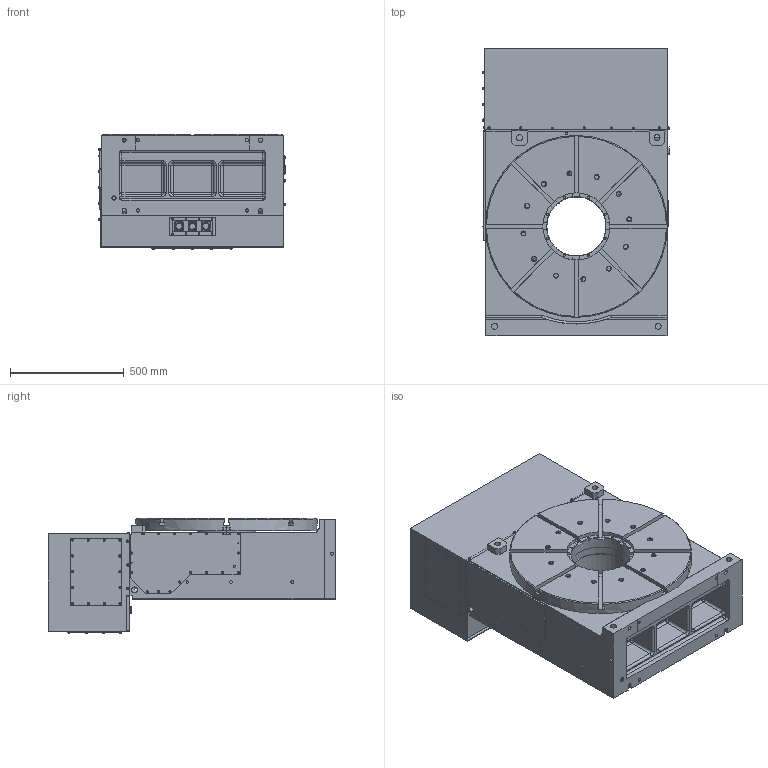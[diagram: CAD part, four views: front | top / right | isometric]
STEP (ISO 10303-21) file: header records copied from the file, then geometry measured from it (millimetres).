
FILE_DESCRIPTION (( 'STEP AP203' ), '1' );
FILE_NAME ('1532133-MDU800R-03.STEP', '2020-12-05T05:25:19', ( '' ), ( '' ), 'SwSTEP 2.0', 'SolidWorks 2019', '' );
FILE_SCHEMA (( 'CONFIG_CONTROL_DESIGN' ));
Length unit declared in the file: millimetre
Products named in the file (1): 1532133-MDU800R-03
Bounding box: 821.9 x 1263.5 x 507 mm (x, y, z)
Surface area: 5652036.2 mm2 (no closed solid volume)
Topology: 0 solids, 144 shells, 1436 faces, 4594 edges, 3244 vertices
Faces by surface type: cylinder 710, plane 451, cone 194, sphere 51, torus 30
Entity records: 52390 total; most frequent: CARTESIAN_POINT 10445, DIRECTION 9581, ORIENTED_EDGE 7241, EDGE_CURVE 4549, AXIS2_PLACEMENT_3D 3713, VERTEX_POINT 3237, CIRCLE 2276, VECTOR 2155
